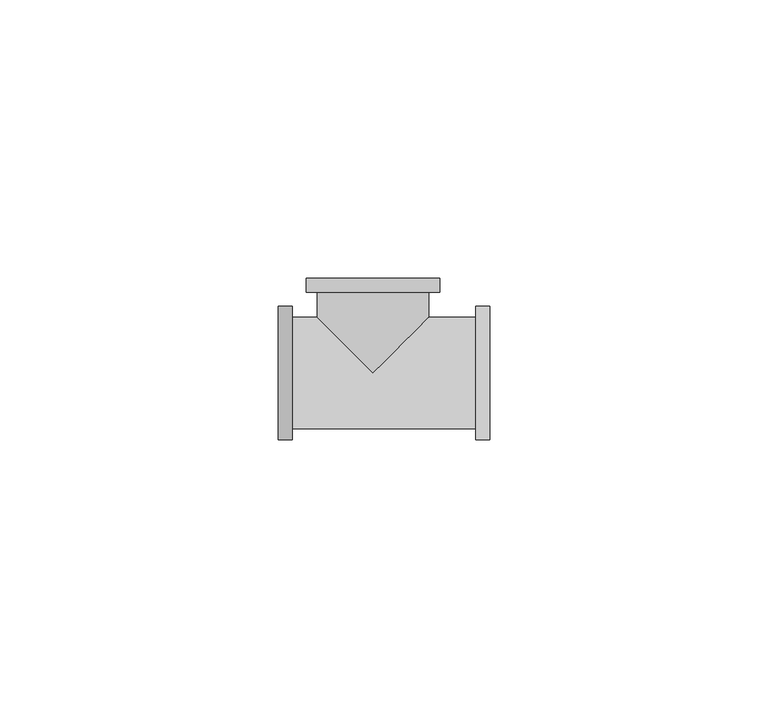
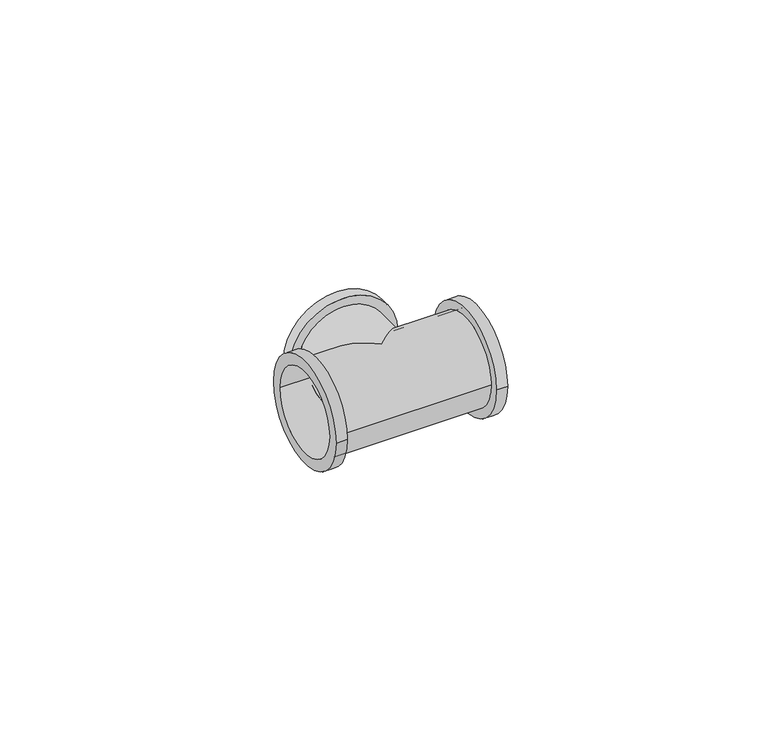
"""IFC4 building model written with IfcOpenShell, lengths in millimetres: pipe fitting geometry, БИР ПЕКС_КМП_Тройник ПЕКС : Тройник ПЕКС_КМП."""

from ifc_helpers import new_model, si_unit, frame, origin, place, context, project, spatial, polyline, circle_curve, ellipse_curve, source, transform, mapped, element, save
from ifc_brep_helpers import plane_surface, cylinder_surface, revolved_surface, advanced_brep


def pipe_fitting_d68b5b16(model_context):
    return source(origin(), model_context, "Body", "AdvancedBrep", [
        advanced_brep(
        [(-12.0, 17.0, 0.0), (12.0, 17.0, 0.0), (-9.5, 17.0, 0.0), (9.5, 17.0, 0.0), (10.0, 10.0, 0.0), (0.0, 0.0, -10.0), (-10.0, 10.0, 0.0), (-10.0, 14.5, 0.0), (10.0, 14.5, 0.0), (0.0, 0.0, 10.0), (21.0, -12.0, 0.0), (21.0, 12.0, 0.0), (21.0, 9.5, 0.0), (21.0, -9.5, 0.0), (-17.0, -12.0, 0.0), (-17.0, 12.0, 0.0), (-17.0, -9.5, 0.0), (-17.0, 9.5, 0.0), (18.5, 10.0, 0.0), (18.5, -10.0, 0.0), (-14.5, -10.0, 0.0), (-14.5, 10.0, 0.0), (-12.0, 14.5, 0.0), (12.0, 14.5, 0.0), (-14.5, -12.0, 0.0), (-14.5, 12.0, 0.0), (18.5, -12.0, 0.0), (18.5, 12.0, 0.0), (-9.5, 9.5, 0.0), (0.0, 0.0, -9.5), (9.5, 9.5, 0.0), (0.0, 0.0, 9.5)],
        [
            (0, 1, circle_curve(frame((0.0, 17.0, 0.0), z_axis=(0.0, 1.0, 0.0), x_axis=(1.0, 0.0, 0.0)), 12.0)),
            (1, 0, circle_curve(frame((0.0, 17.0, 0.0), z_axis=(0.0, 1.0, 0.0), x_axis=(1.0, 0.0, 0.0)), 12.0)),
            (2, 3, circle_curve(frame((0.0, 17.0, 0.0), z_axis=(0.0, -1.0, 0.0), x_axis=(1.0, 0.0, 0.0)), 9.5)),
            (3, 2, circle_curve(frame((0.0, 17.0, 0.0), z_axis=(0.0, -1.0, 0.0), x_axis=(1.0, 0.0, 0.0)), 9.5)),
            (4, 5, ellipse_curve(frame((0.0, 0.0, 0.0), z_axis=(-0.7071067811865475, 0.7071067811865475, 0.0), x_axis=(-0.7071067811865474, -0.7071067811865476, 0.0)), 14.1421356, 10.0)),
            (5, 6, ellipse_curve(frame((0.0, 0.0, 0.0), z_axis=(0.7071067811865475, 0.7071067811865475, 0.0), x_axis=(0.7071067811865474, -0.7071067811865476, 0.0)), 14.1421356, 10.0)),
            (6, 7),
            (7, 8, circle_curve(frame((0.0, 14.5, 0.0), z_axis=(0.0, -1.0, 0.0), x_axis=(1.0, 0.0, 0.0)), 10.0)),
            (8, 4),
            (9, 4, ellipse_curve(frame((0.0, 0.0, 0.0), z_axis=(-0.7071067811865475, 0.7071067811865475, 0.0), x_axis=(-0.7071067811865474, -0.7071067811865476, 0.0)), 14.1421356, 10.0)),
            (8, 7, circle_curve(frame((0.0, 14.5, 0.0), z_axis=(0.0, -1.0, 0.0), x_axis=(1.0, 0.0, 0.0)), 10.0)),
            (6, 9, ellipse_curve(frame((0.0, 0.0, 0.0), z_axis=(0.7071067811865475, 0.7071067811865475, 0.0), x_axis=(0.7071067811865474, -0.7071067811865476, 0.0)), 14.1421356, 10.0)),
            (10, 11, circle_curve(frame((21.0, 0.0, 0.0), z_axis=(1.0, 0.0, 0.0), x_axis=(0.0, 1.0, 0.0)), 12.0)),
            (11, 10, circle_curve(frame((21.0, 0.0, 0.0), z_axis=(1.0, 0.0, 0.0), x_axis=(0.0, 1.0, 0.0)), 12.0)),
            (12, 13, circle_curve(frame((21.0, 0.0, 0.0), z_axis=(-1.0, 0.0, 0.0), x_axis=(0.0, 1.0, 0.0)), 9.5)),
            (13, 12, circle_curve(frame((21.0, 0.0, 0.0), z_axis=(-1.0, 0.0, 0.0), x_axis=(0.0, 1.0, 0.0)), 9.5)),
            (14, 15, circle_curve(frame((-17.0, 0.0, 0.0), z_axis=(-1.0, 0.0, 0.0), x_axis=(0.0, 1.0, 0.0)), 12.0)),
            (15, 14, circle_curve(frame((-17.0, 0.0, 0.0), z_axis=(-1.0, 0.0, 0.0), x_axis=(0.0, 1.0, 0.0)), 12.0)),
            (16, 17, circle_curve(frame((-17.0, 0.0, 0.0), z_axis=(1.0, 0.0, 0.0), x_axis=(0.0, 1.0, 0.0)), 9.5)),
            (17, 16, circle_curve(frame((-17.0, 0.0, 0.0), z_axis=(1.0, 0.0, 0.0), x_axis=(0.0, 1.0, 0.0)), 9.5)),
            (4, 18),
            (18, 19, circle_curve(frame((18.5, 0.0, 0.0), z_axis=(-1.0, 0.0, 0.0), x_axis=(0.0, 1.0, 0.0)), 10.0)),
            (19, 20),
            (20, 21, circle_curve(frame((-14.5, 0.0, 0.0), z_axis=(1.0, 0.0, 0.0), x_axis=(0.0, 1.0, 0.0)), 10.0)),
            (21, 6),
            (21, 20, circle_curve(frame((-14.5, 0.0, 0.0), z_axis=(1.0, 0.0, 0.0), x_axis=(0.0, 1.0, 0.0)), 10.0)),
            (19, 18, circle_curve(frame((18.5, 0.0, 0.0), z_axis=(-1.0, 0.0, 0.0), x_axis=(0.0, 1.0, 0.0)), 10.0)),
            (22, 23, circle_curve(frame((0.0, 14.5, 0.0), z_axis=(0.0, -1.0, 0.0), x_axis=(1.0, 0.0, 0.0)), 12.0)),
            (23, 22, circle_curve(frame((0.0, 14.5, 0.0), z_axis=(0.0, -1.0, 0.0), x_axis=(1.0, 0.0, 0.0)), 12.0)),
            (22, 0),
            (1, 23),
            (24, 25, circle_curve(frame((-14.5, 0.0, 0.0), z_axis=(1.0, 0.0, 0.0), x_axis=(0.0, 1.0, 0.0)), 12.0)),
            (25, 24, circle_curve(frame((-14.5, 0.0, 0.0), z_axis=(1.0, 0.0, 0.0), x_axis=(0.0, 1.0, 0.0)), 12.0)),
            (15, 25),
            (24, 14),
            (26, 27, circle_curve(frame((18.5, 0.0, 0.0), z_axis=(-1.0, 0.0, 0.0), x_axis=(0.0, 1.0, 0.0)), 12.0)),
            (27, 26, circle_curve(frame((18.5, 0.0, 0.0), z_axis=(-1.0, 0.0, 0.0), x_axis=(0.0, 1.0, 0.0)), 12.0)),
            (10, 26),
            (27, 11),
            (2, 28),
            (28, 29, ellipse_curve(frame((0.0, 0.0, 0.0), z_axis=(-0.7071067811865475, -0.7071067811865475, 0.0), x_axis=(0.7071067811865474, -0.7071067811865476, 0.0)), 13.4350288, 9.5)),
            (29, 30, ellipse_curve(frame((0.0, 0.0, 0.0), z_axis=(0.7071067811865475, -0.7071067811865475, 0.0), x_axis=(-0.7071067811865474, -0.7071067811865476, 0.0)), 13.4350288, 9.5)),
            (30, 3),
            (30, 31, ellipse_curve(frame((0.0, 0.0, 0.0), z_axis=(0.7071067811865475, -0.7071067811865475, 0.0), x_axis=(-0.7071067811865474, -0.7071067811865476, 0.0)), 13.4350288, 9.5)),
            (31, 28, ellipse_curve(frame((0.0, 0.0, 0.0), z_axis=(-0.7071067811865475, -0.7071067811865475, 0.0), x_axis=(0.7071067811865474, -0.7071067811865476, 0.0)), 13.4350288, 9.5)),
            (16, 13),
            (12, 30),
            (28, 17),
        ],
        [
            plane_surface(frame((10.0, 17.0, 0.0), z_axis=(0.0, 1.0, 0.0), x_axis=(0.0, 0.0, -1.0))),
            cylinder_surface(frame((0.0, 17.0, 0.0), z_axis=(0.0, -1.0, 0.0), x_axis=(1.0, 0.0, 0.0)), 10.0),
            plane_surface(frame((21.0, 10.0, 0.0), z_axis=(1.0, 0.0, 0.0), x_axis=(0.0, 0.0, 1.0))),
            plane_surface(frame((-17.0, 10.0, 0.0), z_axis=(-1.0, 0.0, 0.0), x_axis=(0.0, 0.0, -1.0))),
            cylinder_surface(frame((-17.0, 0.0, 0.0), z_axis=(1.0, 0.0, 0.0), x_axis=(0.0, 1.0, 0.0)), 10.0),
            plane_surface(frame((12.0, 14.5, 0.0), z_axis=(0.0, -1.0, 0.0), x_axis=(0.0, 0.0, 1.0))),
            cylinder_surface(frame((0.0, 17.0, 0.0), z_axis=(0.0, -1.0, 0.0), x_axis=(1.0, 0.0, 0.0)), 12.0),
            plane_surface(frame((-14.5, 12.0, 0.0), z_axis=(1.0, 0.0, 0.0), x_axis=(0.0, 0.0, 1.0))),
            cylinder_surface(frame((-14.5, 0.0, 0.0), z_axis=(-1.0, 0.0, 0.0), x_axis=(0.0, 1.0, 0.0)), 12.0),
            plane_surface(frame((18.5, 12.0, 0.0), z_axis=(-1.0, 0.0, 0.0), x_axis=(0.0, 0.0, -1.0))),
            cylinder_surface(frame((18.5, 0.0, 0.0), z_axis=(1.0, 0.0, 0.0), x_axis=(0.0, 1.0, 0.0)), 12.0),
            revolved_surface(polyline([(9.5, -9.499999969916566, 0.0), (9.5, 17.0, 0.0)]), (0.0, 17.0, 0.0), (0.0, -1.0, 0.0)),
            revolved_surface(polyline([(21.0, 9.5, 0.0), (-17.0, 9.5, 0.0)]), (-17.0, 0.0, 0.0), (1.0, 0.0, 0.0)),
        ],
        [
            (0, [[1, 2], [3, 4]]),
            (1, [[5, 6, 7, 8, 9]]),
            (1, [[10, -9, 11, -7, 12]]),
            (2, [[13, 14], [15, 16]]),
            (3, [[17, 18], [19, 20]]),
            (4, [[-5, 21, 22, 23, 24, 25, -6]]),
            (4, [[-10, -12, -25, 26, -23, 27, -21]]),
            (5, [[28, 29], [-8, -11]]),
            (6, [[-28, 30, -2, 31]]),
            (6, [[-29, -31, -1, -30]]),
            (7, [[32, 33], [-24, -26]]),
            (8, [[-18, 34, -32, 35]]),
            (8, [[-17, -35, -33, -34]]),
            (9, [[36, 37], [-22, -27]]),
            (10, [[-13, 38, -37, 39]]),
            (10, [[-14, -39, -36, -38]]),
            (11, [[-3, 40, 41, 42, 43]]),
            (11, [[-4, -43, 44, 45, -40]]),
            (12, [[46, -15, 47, -42, -41, 48, -19]]),
            (12, [[-46, -20, -48, -45, -44, -47, -16]]),
        ],
    ),
    ])


if __name__ == "__main__":
    model = new_model("IFC4")
    model_context = context("Model", 3, world=origin())
    ifc_project = project(units=[si_unit("LENGTHUNIT", "METRE", prefix="MILLI")], contexts=[model_context])
    site = spatial("IfcSite", under=ifc_project)
    building = spatial("IfcBuilding", under=site)
    placement = place(None, origin())
    pipe_fitting_shape = pipe_fitting_d68b5b16(model_context)
    element("IfcPipeFitting", 1, ObjectType="БИР ПЕКС_КМП_Тройник ПЕКС : Тройник ПЕКС_КМП", at=placement, inside=building, context=model_context, shape_type="MappedRepresentation", body=[
        mapped(pipe_fitting_shape, transform((0.0, 0.0, 0.0), x_axis=(1.0, 0.0, 0.0), y_axis=(0.0, 1.0, 0.0), z_axis=(0.0, 0.0, 1.0))),
    ])
    save(model, "model.ifc")
